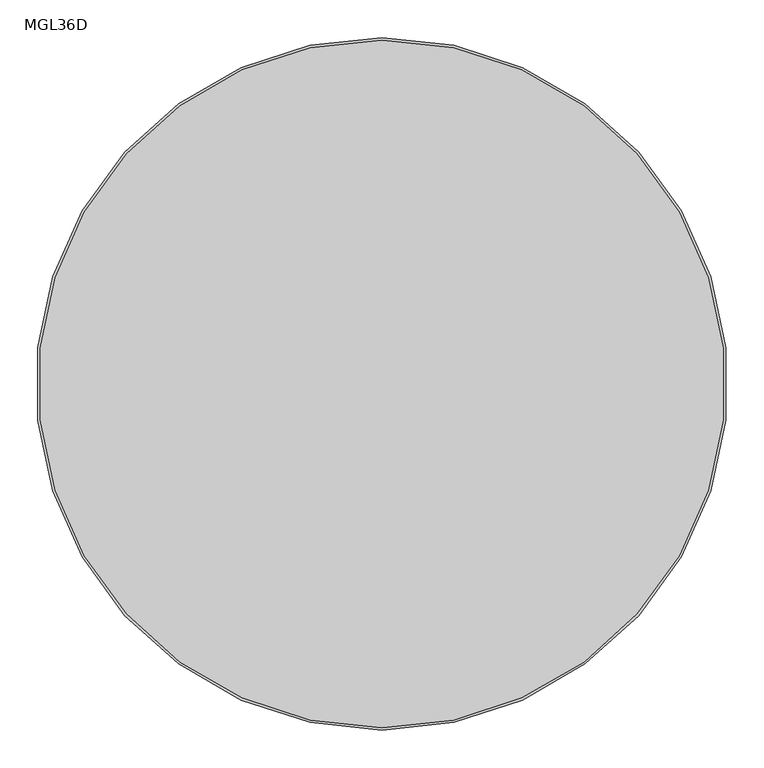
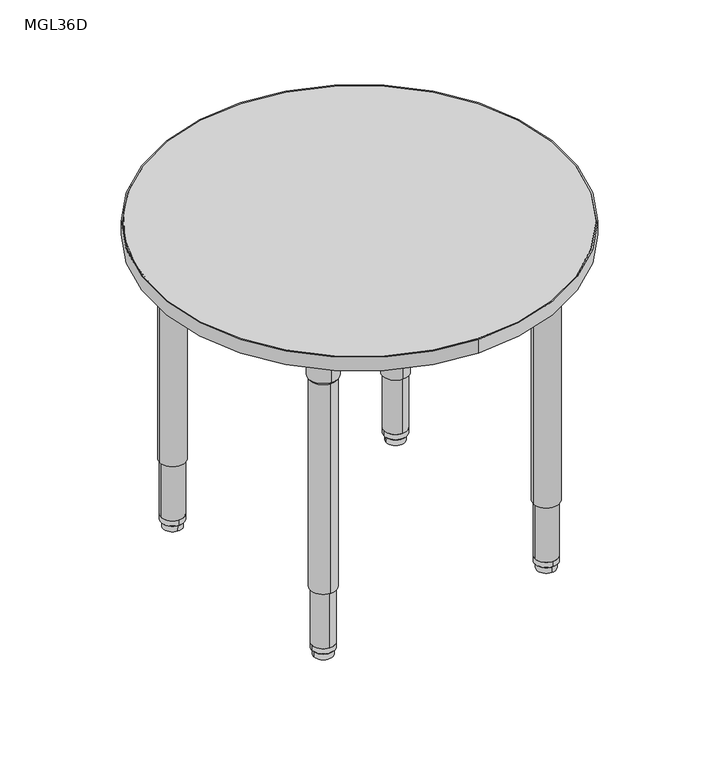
"""IFC4 building model written with IfcOpenShell, lengths in millimetres: furniture geometry, ERG-Mingle-Table-Round : MGL36D."""

import ifcopenshell
import ifcopenshell.guid

model = None  # the IFC model being written
_history = None  # IfcOwnerHistory: only IFC2X3 demands one
_inside = {}  # id of a spatial element -> (the spatial element, [elements in it])
_under = {}  # id of a project, library or spatial element -> (it, [spatial elements below it])
_declared = {}  # id of a project -> (the project, [libraries it declares])
_typed = {}  # id of a type object -> (the type object, [elements of that type])
_made_of = {}  # id of a material, layer set ... -> (it, [elements and type objects made of it])


def new_model(schema):
    """Start an empty IFC model of exactly this schema.

    Asked for "IFC4X3", IfcOpenShell would pick the latest addendum, in which some entities
    have other attributes; the version numbers below select the first issue.
    IFC2X3 requires an IfcOwnerHistory on every rooted entity: one is made here for all.
    """
    global model, _history
    if schema == "IFC4X3":
        model = ifcopenshell.file(schema_version=(4, 3, 0, 0))
    else:
        model = ifcopenshell.file(schema=schema)
    _inside.clear()
    _under.clear()
    _declared.clear()
    _typed.clear()
    _made_of.clear()
    _history = None
    if model.schema == "IFC2X3":
        org = make("IfcOrganization", Name="unknown")
        user = make(
            "IfcPersonAndOrganization",
            ThePerson=make("IfcPerson", FamilyName="unknown"),
            TheOrganization=org,
        )
        app = make(
            "IfcApplication",
            ApplicationDeveloper=org,
            Version="unknown",
            ApplicationFullName="unknown",
            ApplicationIdentifier="unknown",
        )
        _history = make(
            "IfcOwnerHistory",
            OwningUser=user,
            OwningApplication=app,
            ChangeAction="ADDED",
            CreationDate=0,
        )
    return model


def make(cls, **values):
    """One entity of the class cls with the attributes given. An attribute that is None is left unset."""
    return model.create_entity(
        cls, **{name: value for name, value in values.items() if value is not None}
    )


def rooted(cls, **values):
    """An entity with a GlobalId (a new one), such as an element, a storey or a relation."""
    return make(cls, GlobalId=ifcopenshell.guid.new(), OwnerHistory=_history, **values)


def si_unit(unit_type, name, prefix=None):
    """IfcSIUnit, for example si_unit("LENGTHUNIT", "METRE", prefix="MILLI")."""
    return make("IfcSIUnit", UnitType=unit_type, Prefix=prefix, Name=name)


def assignment(units):
    """IfcUnitAssignment: the units of a project."""
    return None if units is None else make("IfcUnitAssignment", Units=units)


def point(xyz):
    """IfcCartesianPoint."""
    return None if xyz is None else make("IfcCartesianPoint", Coordinates=xyz)


def direction(xyz):
    """IfcDirection."""
    return None if xyz is None else make("IfcDirection", DirectionRatios=xyz)


def frame(location, z_axis=None, x_axis=None):
    """IfcAxis2Placement3D, a coordinate frame: its origin and axes. An axis left out is left unset."""
    return make(
        "IfcAxis2Placement3D",
        Location=point(location),
        Axis=direction(z_axis),
        RefDirection=direction(x_axis),
    )


def frame_2d(location, x_axis=None):
    """IfcAxis2Placement2D, a coordinate frame in the plane: its origin and x axis."""
    return make(
        "IfcAxis2Placement2D", Location=point(location), RefDirection=direction(x_axis)
    )


def origin():
    """The frame at (0, 0, 0) with its axes left unset."""
    return frame((0.0, 0.0, 0.0))


def origin_2d():
    """The frame at (0, 0) in the plane with its x axis left unset."""
    return frame_2d((0.0, 0.0))


def place(relative_to, where):
    """IfcLocalPlacement: puts the frame where relative to a parent placement (None: the world)."""
    return make(
        "IfcLocalPlacement", PlacementRelTo=relative_to, RelativePlacement=where
    )


def context(
    kind, dimensions, precision=None, world=None, true_north=None, identifier=None
):
    """IfcGeometricRepresentationContext, for example the 3D "Model" context."""
    return make(
        "IfcGeometricRepresentationContext",
        ContextIdentifier=identifier,
        ContextType=kind,
        CoordinateSpaceDimension=dimensions,
        Precision=precision,
        WorldCoordinateSystem=world,
        TrueNorth=true_north,
    )


def project(units=None, contexts=None):
    """IfcProject with its units and contexts."""
    return rooted(
        "IfcProject",
        Name="project",
        RepresentationContexts=contexts,
        UnitsInContext=assignment(units),
    )


def spatial(cls, under=None, at=None, **own):
    """A site, building, storey or space (cls), placed at a placement, below another one or the project."""
    s = rooted(cls, ObjectPlacement=at, **own)
    if under is not None:
        _under.setdefault(under.id(), (under, []))[1].append(s)
    return s


def polyline(points):
    """IfcPolyline through the points."""
    return make("IfcPolyline", Points=[point(p) for p in points])


def circle_curve(where, radius):
    """IfcCircle in the frame where."""
    return make("IfcCircle", Position=where, Radius=radius)


def trimmed(basis, trim1, trim2, sense, master):
    """IfcTrimmedCurve: the piece of a basis curve between two trims."""
    return make(
        "IfcTrimmedCurve",
        BasisCurve=basis,
        Trim1=trim1,
        Trim2=trim2,
        SenseAgreement=sense,
        MasterRepresentation=master,
    )


def segment(curve, same_sense, transition):
    """IfcCompositeCurveSegment."""
    return make(
        "IfcCompositeCurveSegment",
        Transition=transition,
        SameSense=same_sense,
        ParentCurve=curve,
    )


def composite_curve(segments, self_intersect=None):
    """IfcCompositeCurve: segments joined end to end."""
    return make("IfcCompositeCurve", Segments=segments, SelfIntersect=self_intersect)


def outline(outer, holes=None, kind="AREA"):
    """IfcArbitraryClosedProfileDef: a profile drawn as a closed curve; with holes, ...WithVoids."""
    if holes is None:
        return make("IfcArbitraryClosedProfileDef", ProfileType=kind, OuterCurve=outer)
    return make(
        "IfcArbitraryProfileDefWithVoids",
        ProfileType=kind,
        OuterCurve=outer,
        InnerCurves=holes,
    )


def extrude(swept, where, along, depth):
    """IfcExtrudedAreaSolid: the profile swept, set in the frame where, extruded along a direction by depth."""
    return make(
        "IfcExtrudedAreaSolid",
        SweptArea=swept,
        Position=where,
        ExtrudedDirection=direction(along),
        Depth=depth,
    )


def shape(context_of_items, identifier, shape_type, items):
    """IfcShapeRepresentation: the items that make up one representation, for example the "Body"."""
    return make(
        "IfcShapeRepresentation",
        ContextOfItems=context_of_items,
        RepresentationIdentifier=identifier,
        RepresentationType=shape_type,
        Items=items,
    )


def source(mapping_origin, context_of_items, identifier, shape_type, items):
    """IfcRepresentationMap: a shape defined once, which mapped items show again and again."""
    return make(
        "IfcRepresentationMap",
        MappingOrigin=mapping_origin,
        MappedRepresentation=shape(context_of_items, identifier, shape_type, items),
    )


def transform(
    local_origin,
    x_axis=None,
    y_axis=None,
    z_axis=None,
    scale=None,
    scale2=None,
    scale3=None,
    uniform=True,
):
    """IfcCartesianTransformationOperator3D, or its non-uniform kind. x_axis, y_axis, z_axis: its Axis1, 2, 3."""
    if uniform:
        return make(
            "IfcCartesianTransformationOperator3D",
            Axis1=direction(x_axis),
            Axis2=direction(y_axis),
            LocalOrigin=point(local_origin),
            Scale=scale,
            Axis3=direction(z_axis),
        )
    return make(
        "IfcCartesianTransformationOperator3DnonUniform",
        Axis1=direction(x_axis),
        Axis2=direction(y_axis),
        LocalOrigin=point(local_origin),
        Scale=scale,
        Axis3=direction(z_axis),
        Scale2=scale2,
        Scale3=scale3,
    )


def mapped(mapping_source, mapping_target):
    """IfcMappedItem: shows the shape of a source again, moved by a transform."""
    return make(
        "IfcMappedItem", MappingSource=mapping_source, MappingTarget=mapping_target
    )


def made_of(thing, what):
    """Note that an element or type object is made of a material, layer set ...; save() writes the relation."""
    if what is not None:
        _made_of.setdefault(what.id(), (what, []))[1].append(thing)
    return thing


def element(
    cls,
    number,
    at=None,
    inside=None,
    cuts=None,
    type_object=None,
    material=None,
    context=None,
    identifier="Body",
    shape_type=None,
    held_by="IfcProductDefinitionShape",
    body=None,
    shapes=None,
    **own,
):
    """One element of the class cls, such as IfcWall. Its Tag is "e" and its number.

    at: its placement. inside: the storey or other place that contains it. cuts: it is an
    opening in that element (IfcRelVoidsElement). A single representation is given by context,
    identifier, shape_type and body (its items); several are given by shapes. held_by: the class
    of the entity that holds the representations. save() writes the other relations.
    """
    e = rooted(cls, Tag="e%d" % number, ObjectPlacement=at, **own)
    if body is not None:
        shapes = [shape(context, identifier, shape_type, body)]
    if shapes is not None:
        e.Representation = make(held_by, Representations=shapes)
    if inside is not None:
        _inside.setdefault(inside.id(), (inside, []))[1].append(e)
    if cuts is not None:
        rooted(
            "IfcRelVoidsElement", RelatingBuildingElement=cuts, RelatedOpeningElement=e
        )
    if type_object is not None:
        _typed.setdefault(type_object.id(), (type_object, []))[1].append(e)
    return made_of(e, material)


def aggregate(whole, parts):
    """IfcRelAggregates: a whole, such as a stair, and the parts it consists of."""
    return rooted("IfcRelAggregates", RelatingObject=whole, RelatedObjects=parts)


def save(model, path):
    """Write the relations noted so far, then the file.

    IfcRelAggregates (storeys below a building ...), IfcRelContainedInSpatialStructure (elements
    in a storey), IfcRelDefinesByType, IfcRelAssociatesMaterial and IfcRelDeclares: one each for
    every whole, place, type object, material and project.
    """
    for whole, parts in _under.values():
        aggregate(whole, parts)
    for where, things in _inside.values():
        rooted(
            "IfcRelContainedInSpatialStructure",
            RelatedElements=things,
            RelatingStructure=where,
        )
    for kind, things in _typed.values():
        rooted("IfcRelDefinesByType", RelatedObjects=things, RelatingType=kind)
    for what, things in _made_of.values():
        rooted("IfcRelAssociatesMaterial", RelatedObjects=things, RelatingMaterial=what)
    for by, libraries in _declared.values():
        rooted("IfcRelDeclares", RelatingContext=by, RelatedDefinitions=libraries)
    model.write(path)


def plane_surface(at):
    """IfcPlane: the flat surface through the origin of the frame at, square to its z axis."""
    return make("IfcPlane", Position=at)


def cylinder_surface(at, radius):
    """IfcCylindricalSurface: all points at the distance radius from the z axis of the frame at."""
    return make("IfcCylindricalSurface", Position=at, Radius=radius)


def revolved_surface(curve, axis_point, axis_direction):
    """IfcSurfaceOfRevolution: the curve turned about the line through axis_point along axis_direction."""
    return make(
        "IfcSurfaceOfRevolution",
        SweptCurve=make("IfcArbitraryOpenProfileDef", ProfileType="CURVE", Curve=curve),
        AxisPosition=make("IfcAxis1Placement", Location=point(axis_point), Axis=direction(axis_direction)),
    )


def advanced_brep(points, edges, surfaces, faces):
    """IfcAdvancedBrep: a solid bounded by faces that lie on surfaces and meet in shared edges.

    An edge is (start, end): straight between two places in points (the first is 0);
    or (start, end, curve); or (start, end, curve, False) where it runs against its curve.
    A face is (place in surfaces, loops), or (place, loops, False) where it looks against
    its surface's normal. A loop lists edges by number (the first is 1), with a minus sign
    where the edge is run from its end to its start. The first loop is the outer one.
    """
    corners = [point(p) for p in points]
    vertices = [make("IfcVertexPoint", VertexGeometry=c) for c in corners]
    made = []
    for start, end, *more in edges:
        made.append(
            make(
                "IfcEdgeCurve",
                EdgeStart=vertices[start],
                EdgeEnd=vertices[end],
                EdgeGeometry=more[0] if more else make("IfcPolyline", Points=[corners[start], corners[end]]),
                SameSense=more[1] if len(more) > 1 else True,
            )
        )
    hull = []
    for where, loops, *sense in faces:
        bounds = []
        for j, loop in enumerate(loops):
            ring = [make("IfcOrientedEdge", EdgeElement=made[abs(k) - 1], Orientation=k > 0) for k in loop]
            bounds.append(
                make(
                    "IfcFaceOuterBound" if j == 0 else "IfcFaceBound",
                    Bound=make("IfcEdgeLoop", EdgeList=ring),
                    Orientation=True,
                )
            )
        hull.append(make("IfcAdvancedFace", Bounds=bounds, FaceSurface=surfaces[where], SameSense=sense[0] if sense else True))
    return make("IfcAdvancedBrep", Outer=make("IfcClosedShell", CfsFaces=hull))


def mgl36d_3e933a5c(model_context):
    return source(origin(), model_context, "Body", "SolidModel", [
        advanced_brep(
        [(245.7067524, -239.2235787, 650.5933069), (305.777384, -239.2235787, 650.5933069), (275.7420682, -239.2235787, 650.5933069), (243.5981851, -239.2235787, 654.3580481), (307.8859512, -239.2235787, 654.3580481), (242.6627033, -239.2235787, 707.7631458), (308.8214331, -239.2235787, 707.7631458), (239.2131512, -239.2235787, 714.1198315), (312.2709852, -239.2235787, 714.1198315), (239.2131512, -239.2235787, 726.8198315), (312.2709852, -239.2235787, 726.8198315), (275.7420682, -239.2235787, 726.8198315)],
        [
            (0, 1, circle_curve(frame((275.7420682, -239.2235787, 650.5933069), z_axis=(0.0, 0.0, -1.0), x_axis=(1.0, 0.0, 0.0)), 30.0353158)),
            (1, 2),
            (2, 0),
            (1, 0, circle_curve(frame((275.7420682, -239.2235787, 650.5933069), z_axis=(0.0, 0.0, -1.0), x_axis=(1.0, 0.0, 0.0)), 30.0353158)),
            (3, 4, circle_curve(frame((275.7420682, -239.2235787, 654.3580481), z_axis=(0.0, 0.0, -1.0), x_axis=(1.0, 0.0, 0.0)), 32.143883)),
            (4, 1),
            (0, 3),
            (4, 3, circle_curve(frame((275.7420682, -239.2235787, 654.3580481), z_axis=(0.0, 0.0, -1.0), x_axis=(1.0, 0.0, 0.0)), 32.143883)),
            (5, 6, circle_curve(frame((275.7420682, -239.2235787, 707.7631458), z_axis=(0.0, 0.0, -1.0), x_axis=(1.0, 0.0, 0.0)), 33.0793649)),
            (6, 4),
            (3, 5),
            (6, 5, circle_curve(frame((275.7420682, -239.2235787, 707.7631458), z_axis=(0.0, 0.0, -1.0), x_axis=(1.0, 0.0, 0.0)), 33.0793649)),
            (7, 8, circle_curve(frame((275.7420682, -239.2235787, 714.1198315), z_axis=(0.0, 0.0, -1.0), x_axis=(1.0, 0.0, 0.0)), 36.528917)),
            (8, 6),
            (5, 7),
            (8, 7, circle_curve(frame((275.7420682, -239.2235787, 714.1198315), z_axis=(0.0, 0.0, -1.0), x_axis=(1.0, 0.0, 0.0)), 36.528917)),
            (9, 10, circle_curve(frame((275.7420682, -239.2235787, 726.8198315), z_axis=(0.0, 0.0, -1.0), x_axis=(1.0, 0.0, 0.0)), 36.528917)),
            (10, 8),
            (7, 9),
            (10, 9, circle_curve(frame((275.7420682, -239.2235787, 726.8198315), z_axis=(0.0, 0.0, -1.0), x_axis=(1.0, 0.0, 0.0)), 36.528917)),
            (11, 10),
            (9, 11),
        ],
        [
            plane_surface(frame((275.7420682, -239.2235787, 650.5933069), z_axis=(0.0, 0.0, -1.0), x_axis=(1.0, 0.0, 0.0))),
            revolved_surface(polyline([(305.777384, -239.2235787, 650.5933069), (307.8859512, -239.2235787, 654.3580481)]), (275.7420682, -239.2235787, 726.8198315), (0.0, 0.0, 1.0)),
            revolved_surface(polyline([(307.8859512, -239.2235787, 654.3580481), (308.8214331, -239.2235787, 707.7631458)]), (275.7420682, -239.2235787, 726.8198315), (0.0, 0.0, 1.0)),
            revolved_surface(polyline([(308.8214331, -239.2235787, 707.7631458), (312.2709852, -239.2235787, 714.1198315)]), (275.7420682, -239.2235787, 726.8198315), (0.0, 0.0, 1.0)),
            cylinder_surface(frame((275.7420682, -239.2235787, 726.8198315), z_axis=(0.0, 0.0, 1.0), x_axis=(1.0, 0.0, 0.0)), 36.528917),
            plane_surface(frame((275.7420682, -239.2235787, 726.8198315), z_axis=(0.0, 0.0, 1.0), x_axis=(1.0, 0.0, 0.0))),
        ],
        [
            (0, [[1, 2, 3]]),
            (0, [[4, -3, -2]]),
            (1, [[5, 6, -1, 7]]),
            (1, [[8, -7, -4, -6]]),
            (2, [[9, 10, -5, 11]]),
            (2, [[12, -11, -8, -10]]),
            (3, [[13, 14, -9, 15]]),
            (3, [[16, -15, -12, -14]]),
            (4, [[17, 18, -13, 19]]),
            (4, [[20, -19, -16, -18]]),
            (5, [[21, -17, 22]]),
            (5, [[-22, -20, -21]]),
        ],
    ),
        extrude(outline(composite_curve([segment(polyline([(321.6158362, -156.6459213), (321.6158362, -270.3719541)]), True, "CONTINUOUS"), segment(trimmed(circle_curve(frame_2d((305.7408362, -270.3719541)), 15.875), [point((321.6158362, -270.3719541))], [point((305.7408362, -286.2469541))], False, "CARTESIAN"), True, "CONTINUOUS"), segment(polyline([(305.7408362, -286.2469541), (192.0284887, -286.2469541)]), True, "CONTINUOUS"), segment(trimmed(circle_curve(frame_2d((192.0284887, -273.5469541)), 12.7), [point((192.0284887, -286.2469541))], [point((179.3912605, -272.2858181))], False, "CARTESIAN"), True, "CONTINUOUS"), segment(trimmed(circle_curve(frame_2d((321.8906759, -286.5065903)), 143.2072406), [point((179.3912605, -272.2858181))], [point((307.6532207, -144.0088408))], False, "CARTESIAN"), True, "CONTINUOUS"), segment(trimmed(circle_curve(frame_2d((308.9158362, -156.6459213)), 12.7), [point((307.6532207, -144.0088408))], [point((321.6158362, -156.6459213))], False, "CARTESIAN"), True, "CONTINUOUS")], self_intersect=False)), frame((0.0, 0.0, 726.8198315), z_axis=(0.0, 0.0, 1.0), x_axis=(1.0, 0.0, 0.0)), (0.0, 0.0, 1.0), 3.4301685),
        extrude(outline(composite_curve([segment(trimmed(circle_curve(frame_2d((275.7420682, -239.2235787)), 28.575), [point((304.3170682, -239.2235787))], [point((247.1670682, -239.2235787))], False, "CARTESIAN"), True, "CONTINUOUS"), segment(trimmed(circle_curve(frame_2d((275.7420682, -239.2235787)), 28.575), [point((247.1670682, -239.2235787))], [point((304.3170682, -239.2235787))], False, "CARTESIAN"), True, "CONTINUOUS")], self_intersect=False)), frame((0.0, 0.0, 158.3876979), z_axis=(0.0, 0.0, 1.0), x_axis=(1.0, 0.0, 0.0)), (0.0, 0.0, 1.0), 495.4089866),
        extrude(outline(composite_curve([segment(trimmed(circle_curve(frame_2d((275.7420682, -239.2235787)), 25.4), [point((301.1420682, -239.2235787))], [point((250.3420682, -239.2235787))], False, "CARTESIAN"), True, "CONTINUOUS"), segment(trimmed(circle_curve(frame_2d((275.7420682, -239.2235787)), 25.4), [point((250.3420682, -239.2235787))], [point((301.1420682, -239.2235787))], False, "CARTESIAN"), True, "CONTINUOUS")], self_intersect=False)), frame((0.0, 0.0, 28.9580435), z_axis=(0.0, 0.0, 1.0), x_axis=(1.0, 0.0, 0.0)), (0.0, 0.0, 1.0), 176.7049119),
        advanced_brep(
        [(275.7420682, -213.9885683, 28.9580185), (275.7420682, -264.458589, 28.9580185), (275.7420682, -239.2235787, 28.9580185), (275.7420682, -214.1243397, 16.3032949), (275.7420682, -264.3228177, 16.3032949), (275.7420682, -215.6396405, 14.7291007), (275.7420682, -262.8075168, 14.7291007), (275.7420682, -218.0827209, 14.7291007), (275.7420682, -260.3644364, 14.7291007), (275.7420682, -218.2757123, 0.0), (275.7420682, -260.171445, 0.0), (275.7420682, -239.2235787, 0.0)],
        [
            (0, 1, circle_curve(frame((275.7420682, -239.2235787, 28.9580185), z_axis=(0.0, 0.0, 1.0), x_axis=(0.0, -1.0, 0.0)), 25.2350104)),
            (1, 2),
            (2, 0),
            (1, 0, circle_curve(frame((275.7420682, -239.2235787, 28.9580185), z_axis=(0.0, 0.0, 1.0), x_axis=(0.0, -1.0, 0.0)), 25.2350104)),
            (3, 4, circle_curve(frame((275.7420682, -239.2235787, 16.3032949), z_axis=(0.0, 0.0, 1.0), x_axis=(0.0, -1.0, 0.0)), 25.099239)),
            (4, 1),
            (0, 3),
            (4, 3, circle_curve(frame((275.7420682, -239.2235787, 16.3032949), z_axis=(0.0, 0.0, 1.0), x_axis=(0.0, -1.0, 0.0)), 25.099239)),
            (5, 6, circle_curve(frame((275.7420682, -239.2235787, 14.7291007), z_axis=(0.0, 0.0, 1.0), x_axis=(0.0, -1.0, 0.0)), 23.5839381)),
            (6, 4),
            (3, 5),
            (6, 5, circle_curve(frame((275.7420682, -239.2235787, 14.7291007), z_axis=(0.0, 0.0, 1.0), x_axis=(0.0, -1.0, 0.0)), 23.5839381)),
            (7, 8, circle_curve(frame((275.7420682, -239.2235787, 14.7291007), z_axis=(0.0, 0.0, 1.0), x_axis=(0.0, -1.0, 0.0)), 21.1408578)),
            (8, 6),
            (5, 7),
            (8, 7, circle_curve(frame((275.7420682, -239.2235787, 14.7291007), z_axis=(0.0, 0.0, 1.0), x_axis=(0.0, -1.0, 0.0)), 21.1408578)),
            (9, 10, circle_curve(frame((275.7420682, -239.2235787, 0.0), z_axis=(0.0, 0.0, 1.0), x_axis=(0.0, -1.0, 0.0)), 20.9478664)),
            (10, 8),
            (7, 9),
            (10, 9, circle_curve(frame((275.7420682, -239.2235787, 0.0), z_axis=(0.0, 0.0, 1.0), x_axis=(0.0, -1.0, 0.0)), 20.9478664)),
            (11, 10),
            (9, 11),
        ],
        [
            plane_surface(frame((275.7420682, -239.2235787, 28.9580185), z_axis=(0.0, 0.0, 1.0), x_axis=(0.0, -1.0, 0.0))),
            revolved_surface(polyline([(275.7420682, -264.458589, 28.9580185), (275.7420682, -264.3228177, 16.3032949)]), (275.7420682, -239.2235787, 0.0), (0.0, 0.0, -1.0)),
            revolved_surface(polyline([(275.7420682, -264.3228177, 16.3032949), (275.7420682, -262.8075168, 14.7291007)]), (275.7420682, -239.2235787, 0.0), (0.0, 0.0, -1.0)),
            plane_surface(frame((275.7420682, -239.2235787, 14.7291007), z_axis=(0.0, 0.0, -1.0), x_axis=(0.0, -1.0, 0.0))),
            revolved_surface(polyline([(275.7420682, -260.3644364, 14.7291007), (275.7420682, -260.171445, 0.0)]), (275.7420682, -239.2235787, 0.0), (0.0, 0.0, -1.0)),
            plane_surface(frame((275.7420682, -239.2235787, 0.0), z_axis=(0.0, 0.0, -1.0), x_axis=(0.0, -1.0, 0.0))),
        ],
        [
            (0, [[1, 2, 3]]),
            (0, [[4, -3, -2]]),
            (1, [[5, 6, -1, 7]]),
            (1, [[8, -7, -4, -6]]),
            (2, [[9, 10, -5, 11]]),
            (2, [[12, -11, -8, -10]]),
            (3, [[13, 14, -9, 15]]),
            (3, [[16, -15, -12, -14]]),
            (4, [[17, 18, -13, 19]]),
            (4, [[20, -19, -16, -18]]),
            (5, [[21, -17, 22]]),
            (5, [[-22, -20, -21]]),
        ],
    ),
        advanced_brep(
        [(-239.2235787, -245.7067524, 650.5933069), (-239.2235787, -305.777384, 650.5933069), (-239.2235787, -275.7420682, 650.5933069), (-239.2235787, -243.5981851, 654.3580481), (-239.2235787, -307.8859512, 654.3580481), (-239.2235787, -242.6627033, 707.7631458), (-239.2235787, -308.8214331, 707.7631458), (-239.2235787, -239.2131512, 714.1198315), (-239.2235787, -312.2709852, 714.1198315), (-239.2235787, -239.2131512, 726.8198315), (-239.2235787, -312.2709852, 726.8198315), (-239.2235787, -275.7420682, 726.8198315)],
        [
            (0, 1, circle_curve(frame((-239.2235787, -275.7420682, 650.5933069), z_axis=(0.0, 0.0, -1.0), x_axis=(0.0, -1.0, 0.0)), 30.0353158)),
            (1, 2),
            (2, 0),
            (1, 0, circle_curve(frame((-239.2235787, -275.7420682, 650.5933069), z_axis=(0.0, 0.0, -1.0), x_axis=(0.0, -1.0, 0.0)), 30.0353158)),
            (3, 4, circle_curve(frame((-239.2235787, -275.7420682, 654.3580481), z_axis=(0.0, 0.0, -1.0), x_axis=(0.0, -1.0, 0.0)), 32.143883)),
            (4, 1),
            (0, 3),
            (4, 3, circle_curve(frame((-239.2235787, -275.7420682, 654.3580481), z_axis=(0.0, 0.0, -1.0), x_axis=(0.0, -1.0, 0.0)), 32.143883)),
            (5, 6, circle_curve(frame((-239.2235787, -275.7420682, 707.7631458), z_axis=(0.0, 0.0, -1.0), x_axis=(0.0, -1.0, 0.0)), 33.0793649)),
            (6, 4),
            (3, 5),
            (6, 5, circle_curve(frame((-239.2235787, -275.7420682, 707.7631458), z_axis=(0.0, 0.0, -1.0), x_axis=(0.0, -1.0, 0.0)), 33.0793649)),
            (7, 8, circle_curve(frame((-239.2235787, -275.7420682, 714.1198315), z_axis=(0.0, 0.0, -1.0), x_axis=(0.0, -1.0, 0.0)), 36.528917)),
            (8, 6),
            (5, 7),
            (8, 7, circle_curve(frame((-239.2235787, -275.7420682, 714.1198315), z_axis=(0.0, 0.0, -1.0), x_axis=(0.0, -1.0, 0.0)), 36.528917)),
            (9, 10, circle_curve(frame((-239.2235787, -275.7420682, 726.8198315), z_axis=(0.0, 0.0, -1.0), x_axis=(0.0, -1.0, 0.0)), 36.528917)),
            (10, 8),
            (7, 9),
            (10, 9, circle_curve(frame((-239.2235787, -275.7420682, 726.8198315), z_axis=(0.0, 0.0, -1.0), x_axis=(0.0, -1.0, 0.0)), 36.528917)),
            (11, 10),
            (9, 11),
        ],
        [
            plane_surface(frame((-239.2235787, -275.7420682, 650.5933069), z_axis=(0.0, 0.0, -1.0), x_axis=(0.0, -1.0, 0.0))),
            revolved_surface(polyline([(-239.2235787, -305.777384, 650.5933069), (-239.2235787, -307.8859512, 654.3580481)]), (-239.2235787, -275.7420682, 726.8198315), (0.0, 0.0, 1.0)),
            revolved_surface(polyline([(-239.2235787, -307.8859512, 654.3580481), (-239.2235787, -308.8214331, 707.7631458)]), (-239.2235787, -275.7420682, 726.8198315), (0.0, 0.0, 1.0)),
            revolved_surface(polyline([(-239.2235787, -308.8214331, 707.7631458), (-239.2235787, -312.2709852, 714.1198315)]), (-239.2235787, -275.7420682, 726.8198315), (0.0, 0.0, 1.0)),
            cylinder_surface(frame((-239.2235787, -275.7420682, 726.8198315), z_axis=(0.0, 0.0, 1.0), x_axis=(0.0, -1.0, 0.0)), 36.528917),
            plane_surface(frame((-239.2235787, -275.7420682, 726.8198315), z_axis=(0.0, 0.0, 1.0), x_axis=(0.0, -1.0, 0.0))),
        ],
        [
            (0, [[1, 2, 3]]),
            (0, [[4, -3, -2]]),
            (1, [[5, 6, -1, 7]]),
            (1, [[8, -7, -4, -6]]),
            (2, [[9, 10, -5, 11]]),
            (2, [[12, -11, -8, -10]]),
            (3, [[13, 14, -9, 15]]),
            (3, [[16, -15, -12, -14]]),
            (4, [[17, 18, -13, 19]]),
            (4, [[20, -19, -16, -18]]),
            (5, [[21, -17, 22]]),
            (5, [[-22, -20, -21]]),
        ],
    ),
        extrude(outline(composite_curve([segment(polyline([(-156.6459213, -321.6158362), (-270.3719541, -321.6158362)]), True, "CONTINUOUS"), segment(trimmed(circle_curve(frame_2d((-270.3719541, -305.7408362)), 15.875), [point((-270.3719541, -321.6158362))], [point((-286.2469541, -305.7408362))], False, "CARTESIAN"), True, "CONTINUOUS"), segment(polyline([(-286.2469541, -305.7408362), (-286.2469541, -192.0284887)]), True, "CONTINUOUS"), segment(trimmed(circle_curve(frame_2d((-273.5469541, -192.0284887)), 12.7), [point((-286.2469541, -192.0284887))], [point((-272.2858181, -179.3912605))], False, "CARTESIAN"), True, "CONTINUOUS"), segment(trimmed(circle_curve(frame_2d((-286.5065903, -321.8906759)), 143.2072406), [point((-272.2858181, -179.3912605))], [point((-144.0088408, -307.6532207))], False, "CARTESIAN"), True, "CONTINUOUS"), segment(trimmed(circle_curve(frame_2d((-156.6459213, -308.9158362)), 12.7), [point((-144.0088408, -307.6532207))], [point((-156.6459213, -321.6158362))], False, "CARTESIAN"), True, "CONTINUOUS")], self_intersect=False)), frame((0.0, 0.0, 726.8198315), z_axis=(0.0, 0.0, 1.0), x_axis=(1.0, 0.0, 0.0)), (0.0, 0.0, 1.0), 3.4301685),
        extrude(outline(composite_curve([segment(trimmed(circle_curve(frame_2d((-239.2235787, -275.7420682)), 28.575), [point((-239.2235787, -304.3170682))], [point((-239.2235787, -247.1670682))], False, "CARTESIAN"), True, "CONTINUOUS"), segment(trimmed(circle_curve(frame_2d((-239.2235787, -275.7420682)), 28.575), [point((-239.2235787, -247.1670682))], [point((-239.2235787, -304.3170682))], False, "CARTESIAN"), True, "CONTINUOUS")], self_intersect=False)), frame((0.0, 0.0, 158.3876979), z_axis=(0.0, 0.0, 1.0), x_axis=(1.0, 0.0, 0.0)), (0.0, 0.0, 1.0), 495.4089866),
        extrude(outline(composite_curve([segment(trimmed(circle_curve(frame_2d((-239.2235787, -275.7420682)), 25.4), [point((-239.2235787, -301.1420682))], [point((-239.2235787, -250.3420682))], False, "CARTESIAN"), True, "CONTINUOUS"), segment(trimmed(circle_curve(frame_2d((-239.2235787, -275.7420682)), 25.4), [point((-239.2235787, -250.3420682))], [point((-239.2235787, -301.1420682))], False, "CARTESIAN"), True, "CONTINUOUS")], self_intersect=False)), frame((0.0, 0.0, 28.9580435), z_axis=(0.0, 0.0, 1.0), x_axis=(1.0, 0.0, 0.0)), (0.0, 0.0, 1.0), 176.7049119),
        advanced_brep(
        [(-213.9885683, -275.7420682, 28.9580185), (-264.458589, -275.7420682, 28.9580185), (-239.2235787, -275.7420682, 28.9580185), (-214.1243397, -275.7420682, 16.3032949), (-264.3228177, -275.7420682, 16.3032949), (-215.6396405, -275.7420682, 14.7291007), (-262.8075168, -275.7420682, 14.7291007), (-218.0827209, -275.7420682, 14.7291007), (-260.3644364, -275.7420682, 14.7291007), (-218.2757123, -275.7420682, 0.0), (-260.171445, -275.7420682, 0.0), (-239.2235787, -275.7420682, 0.0)],
        [
            (0, 1, circle_curve(frame((-239.2235787, -275.7420682, 28.9580185), z_axis=(0.0, 0.0, 1.0), x_axis=(-1.0, 0.0, 0.0)), 25.2350104)),
            (1, 2),
            (2, 0),
            (1, 0, circle_curve(frame((-239.2235787, -275.7420682, 28.9580185), z_axis=(0.0, 0.0, 1.0), x_axis=(-1.0, 0.0, 0.0)), 25.2350104)),
            (3, 4, circle_curve(frame((-239.2235787, -275.7420682, 16.3032949), z_axis=(0.0, 0.0, 1.0), x_axis=(-1.0, 0.0, 0.0)), 25.099239)),
            (4, 1),
            (0, 3),
            (4, 3, circle_curve(frame((-239.2235787, -275.7420682, 16.3032949), z_axis=(0.0, 0.0, 1.0), x_axis=(-1.0, 0.0, 0.0)), 25.099239)),
            (5, 6, circle_curve(frame((-239.2235787, -275.7420682, 14.7291007), z_axis=(0.0, 0.0, 1.0), x_axis=(-1.0, 0.0, 0.0)), 23.5839381)),
            (6, 4),
            (3, 5),
            (6, 5, circle_curve(frame((-239.2235787, -275.7420682, 14.7291007), z_axis=(0.0, 0.0, 1.0), x_axis=(-1.0, 0.0, 0.0)), 23.5839381)),
            (7, 8, circle_curve(frame((-239.2235787, -275.7420682, 14.7291007), z_axis=(0.0, 0.0, 1.0), x_axis=(-1.0, 0.0, 0.0)), 21.1408578)),
            (8, 6),
            (5, 7),
            (8, 7, circle_curve(frame((-239.2235787, -275.7420682, 14.7291007), z_axis=(0.0, 0.0, 1.0), x_axis=(-1.0, 0.0, 0.0)), 21.1408578)),
            (9, 10, circle_curve(frame((-239.2235787, -275.7420682, 0.0), z_axis=(0.0, 0.0, 1.0), x_axis=(-1.0, 0.0, 0.0)), 20.9478664)),
            (10, 8),
            (7, 9),
            (10, 9, circle_curve(frame((-239.2235787, -275.7420682, 0.0), z_axis=(0.0, 0.0, 1.0), x_axis=(-1.0, 0.0, 0.0)), 20.9478664)),
            (11, 10),
            (9, 11),
        ],
        [
            plane_surface(frame((-239.2235787, -275.7420682, 28.9580185), z_axis=(0.0, 0.0, 1.0), x_axis=(-1.0, 0.0, 0.0))),
            revolved_surface(polyline([(-264.458589, -275.7420682, 28.9580185), (-264.3228177, -275.7420682, 16.3032949)]), (-239.2235787, -275.7420682, 0.0), (0.0, 0.0, -1.0)),
            revolved_surface(polyline([(-264.3228177, -275.7420682, 16.3032949), (-262.8075168, -275.7420682, 14.7291007)]), (-239.2235787, -275.7420682, 0.0), (0.0, 0.0, -1.0)),
            plane_surface(frame((-239.2235787, -275.7420682, 14.7291007), z_axis=(0.0, 0.0, -1.0), x_axis=(-1.0, 0.0, 0.0))),
            revolved_surface(polyline([(-260.3644364, -275.7420682, 14.7291007), (-260.171445, -275.7420682, 0.0)]), (-239.2235787, -275.7420682, 0.0), (0.0, 0.0, -1.0)),
            plane_surface(frame((-239.2235787, -275.7420682, 0.0), z_axis=(0.0, 0.0, -1.0), x_axis=(-1.0, 0.0, 0.0))),
        ],
        [
            (0, [[1, 2, 3]]),
            (0, [[4, -3, -2]]),
            (1, [[5, 6, -1, 7]]),
            (1, [[8, -7, -4, -6]]),
            (2, [[9, 10, -5, 11]]),
            (2, [[12, -11, -8, -10]]),
            (3, [[13, 14, -9, 15]]),
            (3, [[16, -15, -12, -14]]),
            (4, [[17, 18, -13, 19]]),
            (4, [[20, -19, -16, -18]]),
            (5, [[21, -17, 22]]),
            (5, [[-22, -20, -21]]),
        ],
    ),
        advanced_brep(
        [(239.2235787, 245.7067524, 650.5933069), (239.2235787, 305.777384, 650.5933069), (239.2235787, 275.7420682, 650.5933069), (239.2235787, 243.5981851, 654.3580481), (239.2235787, 307.8859512, 654.3580481), (239.2235787, 242.6627033, 707.7631458), (239.2235787, 308.8214331, 707.7631458), (239.2235787, 239.2131512, 714.1198315), (239.2235787, 312.2709852, 714.1198315), (239.2235787, 239.2131512, 726.8198315), (239.2235787, 312.2709852, 726.8198315), (239.2235787, 275.7420682, 726.8198315)],
        [
            (0, 1, circle_curve(frame((239.2235787, 275.7420682, 650.5933069), z_axis=(0.0, 0.0, -1.0), x_axis=(0.0, 1.0, 0.0)), 30.0353158)),
            (1, 2),
            (2, 0),
            (1, 0, circle_curve(frame((239.2235787, 275.7420682, 650.5933069), z_axis=(0.0, 0.0, -1.0), x_axis=(0.0, 1.0, 0.0)), 30.0353158)),
            (3, 4, circle_curve(frame((239.2235787, 275.7420682, 654.3580481), z_axis=(0.0, 0.0, -1.0), x_axis=(0.0, 1.0, 0.0)), 32.143883)),
            (4, 1),
            (0, 3),
            (4, 3, circle_curve(frame((239.2235787, 275.7420682, 654.3580481), z_axis=(0.0, 0.0, -1.0), x_axis=(0.0, 1.0, 0.0)), 32.143883)),
            (5, 6, circle_curve(frame((239.2235787, 275.7420682, 707.7631458), z_axis=(0.0, 0.0, -1.0), x_axis=(0.0, 1.0, 0.0)), 33.0793649)),
            (6, 4),
            (3, 5),
            (6, 5, circle_curve(frame((239.2235787, 275.7420682, 707.7631458), z_axis=(0.0, 0.0, -1.0), x_axis=(0.0, 1.0, 0.0)), 33.0793649)),
            (7, 8, circle_curve(frame((239.2235787, 275.7420682, 714.1198315), z_axis=(0.0, 0.0, -1.0), x_axis=(0.0, 1.0, 0.0)), 36.528917)),
            (8, 6),
            (5, 7),
            (8, 7, circle_curve(frame((239.2235787, 275.7420682, 714.1198315), z_axis=(0.0, 0.0, -1.0), x_axis=(0.0, 1.0, 0.0)), 36.528917)),
            (9, 10, circle_curve(frame((239.2235787, 275.7420682, 726.8198315), z_axis=(0.0, 0.0, -1.0), x_axis=(0.0, 1.0, 0.0)), 36.528917)),
            (10, 8),
            (7, 9),
            (10, 9, circle_curve(frame((239.2235787, 275.7420682, 726.8198315), z_axis=(0.0, 0.0, -1.0), x_axis=(0.0, 1.0, 0.0)), 36.528917)),
            (11, 10),
            (9, 11),
        ],
        [
            plane_surface(frame((239.2235787, 275.7420682, 650.5933069), z_axis=(0.0, 0.0, -1.0), x_axis=(0.0, 1.0, 0.0))),
            revolved_surface(polyline([(239.2235787, 305.777384, 650.5933069), (239.2235787, 307.8859512, 654.3580481)]), (239.2235787, 275.7420682, 726.8198315), (0.0, 0.0, 1.0)),
            revolved_surface(polyline([(239.2235787, 307.8859512, 654.3580481), (239.2235787, 308.8214331, 707.7631458)]), (239.2235787, 275.7420682, 726.8198315), (0.0, 0.0, 1.0)),
            revolved_surface(polyline([(239.2235787, 308.8214331, 707.7631458), (239.2235787, 312.2709852, 714.1198315)]), (239.2235787, 275.7420682, 726.8198315), (0.0, 0.0, 1.0)),
            cylinder_surface(frame((239.2235787, 275.7420682, 726.8198315), z_axis=(0.0, 0.0, 1.0), x_axis=(0.0, 1.0, 0.0)), 36.528917),
            plane_surface(frame((239.2235787, 275.7420682, 726.8198315), z_axis=(0.0, 0.0, 1.0), x_axis=(0.0, 1.0, 0.0))),
        ],
        [
            (0, [[1, 2, 3]]),
            (0, [[4, -3, -2]]),
            (1, [[5, 6, -1, 7]]),
            (1, [[8, -7, -4, -6]]),
            (2, [[9, 10, -5, 11]]),
            (2, [[12, -11, -8, -10]]),
            (3, [[13, 14, -9, 15]]),
            (3, [[16, -15, -12, -14]]),
            (4, [[17, 18, -13, 19]]),
            (4, [[20, -19, -16, -18]]),
            (5, [[21, -17, 22]]),
            (5, [[-22, -20, -21]]),
        ],
    ),
        extrude(outline(composite_curve([segment(polyline([(156.6459213, 321.6158362), (270.3719541, 321.6158362)]), True, "CONTINUOUS"), segment(trimmed(circle_curve(frame_2d((270.3719541, 305.7408362)), 15.875), [point((270.3719541, 321.6158362))], [point((286.2469541, 305.7408362))], False, "CARTESIAN"), True, "CONTINUOUS"), segment(polyline([(286.2469541, 305.7408362), (286.2469541, 192.0284887)]), True, "CONTINUOUS"), segment(trimmed(circle_curve(frame_2d((273.5469541, 192.0284887)), 12.7), [point((286.2469541, 192.0284887))], [point((272.2858181, 179.3912605))], False, "CARTESIAN"), True, "CONTINUOUS"), segment(trimmed(circle_curve(frame_2d((286.5065903, 321.8906759)), 143.2072406), [point((272.2858181, 179.3912605))], [point((144.0088408, 307.6532207))], False, "CARTESIAN"), True, "CONTINUOUS"), segment(trimmed(circle_curve(frame_2d((156.6459213, 308.9158362)), 12.7), [point((144.0088408, 307.6532207))], [point((156.6459213, 321.6158362))], False, "CARTESIAN"), True, "CONTINUOUS")], self_intersect=False)), frame((0.0, 0.0, 726.8198315), z_axis=(0.0, 0.0, 1.0), x_axis=(1.0, 0.0, 0.0)), (0.0, 0.0, 1.0), 3.4301685),
        extrude(outline(composite_curve([segment(trimmed(circle_curve(frame_2d((239.2235787, 275.7420682)), 28.575), [point((239.2235787, 304.3170682))], [point((239.2235787, 247.1670682))], False, "CARTESIAN"), True, "CONTINUOUS"), segment(trimmed(circle_curve(frame_2d((239.2235787, 275.7420682)), 28.575), [point((239.2235787, 247.1670682))], [point((239.2235787, 304.3170682))], False, "CARTESIAN"), True, "CONTINUOUS")], self_intersect=False)), frame((0.0, 0.0, 158.3876979), z_axis=(0.0, 0.0, 1.0), x_axis=(1.0, 0.0, 0.0)), (0.0, 0.0, 1.0), 495.4089866),
        extrude(outline(composite_curve([segment(trimmed(circle_curve(frame_2d((239.2235787, 275.7420682)), 25.4), [point((239.2235787, 301.1420682))], [point((239.2235787, 250.3420682))], False, "CARTESIAN"), True, "CONTINUOUS"), segment(trimmed(circle_curve(frame_2d((239.2235787, 275.7420682)), 25.4), [point((239.2235787, 250.3420682))], [point((239.2235787, 301.1420682))], False, "CARTESIAN"), True, "CONTINUOUS")], self_intersect=False)), frame((0.0, 0.0, 28.9580435), z_axis=(0.0, 0.0, 1.0), x_axis=(1.0, 0.0, 0.0)), (0.0, 0.0, 1.0), 176.7049119),
        advanced_brep(
        [(213.9885683, 275.7420682, 28.9580185), (264.458589, 275.7420682, 28.9580185), (239.2235787, 275.7420682, 28.9580185), (214.1243397, 275.7420682, 16.3032949), (264.3228177, 275.7420682, 16.3032949), (215.6396405, 275.7420682, 14.7291007), (262.8075168, 275.7420682, 14.7291007), (218.0827209, 275.7420682, 14.7291007), (260.3644364, 275.7420682, 14.7291007), (218.2757123, 275.7420682, 0.0), (260.171445, 275.7420682, 0.0), (239.2235787, 275.7420682, 0.0)],
        [
            (0, 1, circle_curve(frame((239.2235787, 275.7420682, 28.9580185), z_axis=(0.0, 0.0, 1.0), x_axis=(1.0, 0.0, 0.0)), 25.2350104)),
            (1, 2),
            (2, 0),
            (1, 0, circle_curve(frame((239.2235787, 275.7420682, 28.9580185), z_axis=(0.0, 0.0, 1.0), x_axis=(1.0, 0.0, 0.0)), 25.2350104)),
            (3, 4, circle_curve(frame((239.2235787, 275.7420682, 16.3032949), z_axis=(0.0, 0.0, 1.0), x_axis=(1.0, 0.0, 0.0)), 25.099239)),
            (4, 1),
            (0, 3),
            (4, 3, circle_curve(frame((239.2235787, 275.7420682, 16.3032949), z_axis=(0.0, 0.0, 1.0), x_axis=(1.0, 0.0, 0.0)), 25.099239)),
            (5, 6, circle_curve(frame((239.2235787, 275.7420682, 14.7291007), z_axis=(0.0, 0.0, 1.0), x_axis=(1.0, 0.0, 0.0)), 23.5839381)),
            (6, 4),
            (3, 5),
            (6, 5, circle_curve(frame((239.2235787, 275.7420682, 14.7291007), z_axis=(0.0, 0.0, 1.0), x_axis=(1.0, 0.0, 0.0)), 23.5839381)),
            (7, 8, circle_curve(frame((239.2235787, 275.7420682, 14.7291007), z_axis=(0.0, 0.0, 1.0), x_axis=(1.0, 0.0, 0.0)), 21.1408578)),
            (8, 6),
            (5, 7),
            (8, 7, circle_curve(frame((239.2235787, 275.7420682, 14.7291007), z_axis=(0.0, 0.0, 1.0), x_axis=(1.0, 0.0, 0.0)), 21.1408578)),
            (9, 10, circle_curve(frame((239.2235787, 275.7420682, 0.0), z_axis=(0.0, 0.0, 1.0), x_axis=(1.0, 0.0, 0.0)), 20.9478664)),
            (10, 8),
            (7, 9),
            (10, 9, circle_curve(frame((239.2235787, 275.7420682, 0.0), z_axis=(0.0, 0.0, 1.0), x_axis=(1.0, 0.0, 0.0)), 20.9478664)),
            (11, 10),
            (9, 11),
        ],
        [
            plane_surface(frame((239.2235787, 275.7420682, 28.9580185), z_axis=(0.0, 0.0, 1.0), x_axis=(1.0, 0.0, 0.0))),
            revolved_surface(polyline([(264.458589, 275.7420682, 28.9580185), (264.3228177, 275.7420682, 16.3032949)]), (239.2235787, 275.7420682, 0.0), (0.0, 0.0, -1.0)),
            revolved_surface(polyline([(264.3228177, 275.7420682, 16.3032949), (262.8075168, 275.7420682, 14.7291007)]), (239.2235787, 275.7420682, 0.0), (0.0, 0.0, -1.0)),
            plane_surface(frame((239.2235787, 275.7420682, 14.7291007), z_axis=(0.0, 0.0, -1.0), x_axis=(1.0, 0.0, 0.0))),
            revolved_surface(polyline([(260.3644364, 275.7420682, 14.7291007), (260.171445, 275.7420682, 0.0)]), (239.2235787, 275.7420682, 0.0), (0.0, 0.0, -1.0)),
            plane_surface(frame((239.2235787, 275.7420682, 0.0), z_axis=(0.0, 0.0, -1.0), x_axis=(1.0, 0.0, 0.0))),
        ],
        [
            (0, [[1, 2, 3]]),
            (0, [[4, -3, -2]]),
            (1, [[5, 6, -1, 7]]),
            (1, [[8, -7, -4, -6]]),
            (2, [[9, 10, -5, 11]]),
            (2, [[12, -11, -8, -10]]),
            (3, [[13, 14, -9, 15]]),
            (3, [[16, -15, -12, -14]]),
            (4, [[17, 18, -13, 19]]),
            (4, [[20, -19, -16, -18]]),
            (5, [[21, -17, 22]]),
            (5, [[-22, -20, -21]]),
        ],
    ),
        advanced_brep(
        [(-245.7067524, 239.2235787, 650.5933069), (-305.777384, 239.2235787, 650.5933069), (-275.7420682, 239.2235787, 650.5933069), (-243.5981851, 239.2235787, 654.3580481), (-307.8859512, 239.2235787, 654.3580481), (-242.6627033, 239.2235787, 707.7631458), (-308.8214331, 239.2235787, 707.7631458), (-239.2131512, 239.2235787, 714.1198315), (-312.2709852, 239.2235787, 714.1198315), (-239.2131512, 239.2235787, 726.8198315), (-312.2709852, 239.2235787, 726.8198315), (-275.7420682, 239.2235787, 726.8198315)],
        [
            (0, 1, circle_curve(frame((-275.7420682, 239.2235787, 650.5933069), z_axis=(0.0, 0.0, -1.0), x_axis=(-1.0, 0.0, 0.0)), 30.0353158)),
            (1, 2),
            (2, 0),
            (1, 0, circle_curve(frame((-275.7420682, 239.2235787, 650.5933069), z_axis=(0.0, 0.0, -1.0), x_axis=(-1.0, 0.0, 0.0)), 30.0353158)),
            (3, 4, circle_curve(frame((-275.7420682, 239.2235787, 654.3580481), z_axis=(0.0, 0.0, -1.0), x_axis=(-1.0, 0.0, 0.0)), 32.143883)),
            (4, 1),
            (0, 3),
            (4, 3, circle_curve(frame((-275.7420682, 239.2235787, 654.3580481), z_axis=(0.0, 0.0, -1.0), x_axis=(-1.0, 0.0, 0.0)), 32.143883)),
            (5, 6, circle_curve(frame((-275.7420682, 239.2235787, 707.7631458), z_axis=(0.0, 0.0, -1.0), x_axis=(-1.0, 0.0, 0.0)), 33.0793649)),
            (6, 4),
            (3, 5),
            (6, 5, circle_curve(frame((-275.7420682, 239.2235787, 707.7631458), z_axis=(0.0, 0.0, -1.0), x_axis=(-1.0, 0.0, 0.0)), 33.0793649)),
            (7, 8, circle_curve(frame((-275.7420682, 239.2235787, 714.1198315), z_axis=(0.0, 0.0, -1.0), x_axis=(-1.0, 0.0, 0.0)), 36.528917)),
            (8, 6),
            (5, 7),
            (8, 7, circle_curve(frame((-275.7420682, 239.2235787, 714.1198315), z_axis=(0.0, 0.0, -1.0), x_axis=(-1.0, 0.0, 0.0)), 36.528917)),
            (9, 10, circle_curve(frame((-275.7420682, 239.2235787, 726.8198315), z_axis=(0.0, 0.0, -1.0), x_axis=(-1.0, 0.0, 0.0)), 36.528917)),
            (10, 8),
            (7, 9),
            (10, 9, circle_curve(frame((-275.7420682, 239.2235787, 726.8198315), z_axis=(0.0, 0.0, -1.0), x_axis=(-1.0, 0.0, 0.0)), 36.528917)),
            (11, 10),
            (9, 11),
        ],
        [
            plane_surface(frame((-275.7420682, 239.2235787, 650.5933069), z_axis=(0.0, 0.0, -1.0), x_axis=(-1.0, 0.0, 0.0))),
            revolved_surface(polyline([(-305.777384, 239.2235787, 650.5933069), (-307.8859512, 239.2235787, 654.3580481)]), (-275.7420682, 239.2235787, 726.8198315), (0.0, 0.0, 1.0)),
            revolved_surface(polyline([(-307.8859512, 239.2235787, 654.3580481), (-308.8214331, 239.2235787, 707.7631458)]), (-275.7420682, 239.2235787, 726.8198315), (0.0, 0.0, 1.0)),
            revolved_surface(polyline([(-308.8214331, 239.2235787, 707.7631458), (-312.2709852, 239.2235787, 714.1198315)]), (-275.7420682, 239.2235787, 726.8198315), (0.0, 0.0, 1.0)),
            cylinder_surface(frame((-275.7420682, 239.2235787, 726.8198315), z_axis=(0.0, 0.0, 1.0), x_axis=(-1.0, 0.0, 0.0)), 36.528917),
            plane_surface(frame((-275.7420682, 239.2235787, 726.8198315), z_axis=(0.0, 0.0, 1.0), x_axis=(-1.0, 0.0, 0.0))),
        ],
        [
            (0, [[1, 2, 3]]),
            (0, [[4, -3, -2]]),
            (1, [[5, 6, -1, 7]]),
            (1, [[8, -7, -4, -6]]),
            (2, [[9, 10, -5, 11]]),
            (2, [[12, -11, -8, -10]]),
            (3, [[13, 14, -9, 15]]),
            (3, [[16, -15, -12, -14]]),
            (4, [[17, 18, -13, 19]]),
            (4, [[20, -19, -16, -18]]),
            (5, [[21, -17, 22]]),
            (5, [[-22, -20, -21]]),
        ],
    ),
        extrude(outline(composite_curve([segment(polyline([(-321.6158362, 156.6459213), (-321.6158362, 270.3719541)]), True, "CONTINUOUS"), segment(trimmed(circle_curve(frame_2d((-305.7408362, 270.3719541)), 15.875), [point((-321.6158362, 270.3719541))], [point((-305.7408362, 286.2469541))], False, "CARTESIAN"), True, "CONTINUOUS"), segment(polyline([(-305.7408362, 286.2469541), (-192.0284887, 286.2469541)]), True, "CONTINUOUS"), segment(trimmed(circle_curve(frame_2d((-192.0284887, 273.5469541)), 12.7), [point((-192.0284887, 286.2469541))], [point((-179.3912605, 272.2858181))], False, "CARTESIAN"), True, "CONTINUOUS"), segment(trimmed(circle_curve(frame_2d((-321.8906759, 286.5065903)), 143.2072406), [point((-179.3912605, 272.2858181))], [point((-307.6532207, 144.0088408))], False, "CARTESIAN"), True, "CONTINUOUS"), segment(trimmed(circle_curve(frame_2d((-308.9158362, 156.6459213)), 12.7), [point((-307.6532207, 144.0088408))], [point((-321.6158362, 156.6459213))], False, "CARTESIAN"), True, "CONTINUOUS")], self_intersect=False)), frame((0.0, 0.0, 726.8198315), z_axis=(0.0, 0.0, 1.0), x_axis=(1.0, 0.0, 0.0)), (0.0, 0.0, 1.0), 3.4301685),
        extrude(outline(composite_curve([segment(trimmed(circle_curve(frame_2d((-275.7420682, 239.2235787)), 28.575), [point((-304.3170682, 239.2235787))], [point((-247.1670682, 239.2235787))], False, "CARTESIAN"), True, "CONTINUOUS"), segment(trimmed(circle_curve(frame_2d((-275.7420682, 239.2235787)), 28.575), [point((-247.1670682, 239.2235787))], [point((-304.3170682, 239.2235787))], False, "CARTESIAN"), True, "CONTINUOUS")], self_intersect=False)), frame((0.0, 0.0, 158.3876979), z_axis=(0.0, 0.0, 1.0), x_axis=(1.0, 0.0, 0.0)), (0.0, 0.0, 1.0), 495.4089866),
        extrude(outline(composite_curve([segment(trimmed(circle_curve(frame_2d((-275.7420682, 239.2235787)), 25.4), [point((-301.1420682, 239.2235787))], [point((-250.3420682, 239.2235787))], False, "CARTESIAN"), True, "CONTINUOUS"), segment(trimmed(circle_curve(frame_2d((-275.7420682, 239.2235787)), 25.4), [point((-250.3420682, 239.2235787))], [point((-301.1420682, 239.2235787))], False, "CARTESIAN"), True, "CONTINUOUS")], self_intersect=False)), frame((0.0, 0.0, 28.9580435), z_axis=(0.0, 0.0, 1.0), x_axis=(1.0, 0.0, 0.0)), (0.0, 0.0, 1.0), 176.7049119),
        advanced_brep(
        [(-275.7420682, 213.9885683, 28.9580185), (-275.7420682, 264.458589, 28.9580185), (-275.7420682, 239.2235787, 28.9580185), (-275.7420682, 214.1243397, 16.3032949), (-275.7420682, 264.3228177, 16.3032949), (-275.7420682, 215.6396405, 14.7291007), (-275.7420682, 262.8075168, 14.7291007), (-275.7420682, 218.0827209, 14.7291007), (-275.7420682, 260.3644364, 14.7291007), (-275.7420682, 218.2757123, 0.0), (-275.7420682, 260.171445, 0.0), (-275.7420682, 239.2235787, 0.0)],
        [
            (0, 1, circle_curve(frame((-275.7420682, 239.2235787, 28.9580185), z_axis=(0.0, 0.0, 1.0), x_axis=(0.0, 1.0, 0.0)), 25.2350104)),
            (1, 2),
            (2, 0),
            (1, 0, circle_curve(frame((-275.7420682, 239.2235787, 28.9580185), z_axis=(0.0, 0.0, 1.0), x_axis=(0.0, 1.0, 0.0)), 25.2350104)),
            (3, 4, circle_curve(frame((-275.7420682, 239.2235787, 16.3032949), z_axis=(0.0, 0.0, 1.0), x_axis=(0.0, 1.0, 0.0)), 25.099239)),
            (4, 1),
            (0, 3),
            (4, 3, circle_curve(frame((-275.7420682, 239.2235787, 16.3032949), z_axis=(0.0, 0.0, 1.0), x_axis=(0.0, 1.0, 0.0)), 25.099239)),
            (5, 6, circle_curve(frame((-275.7420682, 239.2235787, 14.7291007), z_axis=(0.0, 0.0, 1.0), x_axis=(0.0, 1.0, 0.0)), 23.5839381)),
            (6, 4),
            (3, 5),
            (6, 5, circle_curve(frame((-275.7420682, 239.2235787, 14.7291007), z_axis=(0.0, 0.0, 1.0), x_axis=(0.0, 1.0, 0.0)), 23.5839381)),
            (7, 8, circle_curve(frame((-275.7420682, 239.2235787, 14.7291007), z_axis=(0.0, 0.0, 1.0), x_axis=(0.0, 1.0, 0.0)), 21.1408578)),
            (8, 6),
            (5, 7),
            (8, 7, circle_curve(frame((-275.7420682, 239.2235787, 14.7291007), z_axis=(0.0, 0.0, 1.0), x_axis=(0.0, 1.0, 0.0)), 21.1408578)),
            (9, 10, circle_curve(frame((-275.7420682, 239.2235787, 0.0), z_axis=(0.0, 0.0, 1.0), x_axis=(0.0, 1.0, 0.0)), 20.9478664)),
            (10, 8),
            (7, 9),
            (10, 9, circle_curve(frame((-275.7420682, 239.2235787, 0.0), z_axis=(0.0, 0.0, 1.0), x_axis=(0.0, 1.0, 0.0)), 20.9478664)),
            (11, 10),
            (9, 11),
        ],
        [
            plane_surface(frame((-275.7420682, 239.2235787, 28.9580185), z_axis=(0.0, 0.0, 1.0), x_axis=(0.0, 1.0, 0.0))),
            revolved_surface(polyline([(-275.7420682, 264.458589, 28.9580185), (-275.7420682, 264.3228177, 16.3032949)]), (-275.7420682, 239.2235787, 0.0), (0.0, 0.0, -1.0)),
            revolved_surface(polyline([(-275.7420682, 264.3228177, 16.3032949), (-275.7420682, 262.8075168, 14.7291007)]), (-275.7420682, 239.2235787, 0.0), (0.0, 0.0, -1.0)),
            plane_surface(frame((-275.7420682, 239.2235787, 14.7291007), z_axis=(0.0, 0.0, -1.0), x_axis=(0.0, 1.0, 0.0))),
            revolved_surface(polyline([(-275.7420682, 260.3644364, 14.7291007), (-275.7420682, 260.171445, 0.0)]), (-275.7420682, 239.2235787, 0.0), (0.0, 0.0, -1.0)),
            plane_surface(frame((-275.7420682, 239.2235787, 0.0), z_axis=(0.0, 0.0, -1.0), x_axis=(0.0, 1.0, 0.0))),
        ],
        [
            (0, [[1, 2, 3]]),
            (0, [[4, -3, -2]]),
            (1, [[5, 6, -1, 7]]),
            (1, [[8, -7, -4, -6]]),
            (2, [[9, 10, -5, 11]]),
            (2, [[12, -11, -8, -10]]),
            (3, [[13, 14, -9, 15]]),
            (3, [[16, -15, -12, -14]]),
            (4, [[17, 18, -13, 19]]),
            (4, [[20, -19, -16, -18]]),
            (5, [[21, -17, 22]]),
            (5, [[-22, -20, -21]]),
        ],
    ),
        extrude(outline(composite_curve([segment(trimmed(circle_curve(origin_2d(), 454.025), [point((0.0, -454.025))], [point((0.0, 454.025))], False, "CARTESIAN"), True, "CONTINUOUS"), segment(trimmed(circle_curve(origin_2d(), 454.025), [point((0.0, 454.025))], [point((0.0, -454.025))], False, "CARTESIAN"), True, "CONTINUOUS")], self_intersect=False)), frame((0.0, 0.0, 730.25), z_axis=(0.0, 0.0, 1.0), x_axis=(1.0, 0.0, 0.0)), (0.0, 0.0, 1.0), 31.75),
        extrude(outline(composite_curve([segment(trimmed(circle_curve(origin_2d(), 457.2), [point((0.0, -457.2))], [point((0.0, 457.2))], False, "CARTESIAN"), True, "CONTINUOUS"), segment(trimmed(circle_curve(origin_2d(), 457.2), [point((0.0, 457.2))], [point((0.0, -457.2))], False, "CARTESIAN"), True, "CONTINUOUS")], self_intersect=False), holes=[composite_curve([segment(trimmed(circle_curve(origin_2d(), 454.025), [point((0.0, 454.025))], [point((0.0, -454.025))], True, "CARTESIAN"), True, "CONTINUOUS"), segment(trimmed(circle_curve(origin_2d(), 454.025), [point((0.0, -454.025))], [point((0.0, 454.025))], True, "CARTESIAN"), True, "CONTINUOUS")], self_intersect=False)]), frame((0.0, 0.0, 730.25), z_axis=(0.0, 0.0, 1.0), x_axis=(1.0, 0.0, 0.0)), (0.0, 0.0, 1.0), 31.75),
    ])


if __name__ == "__main__":
    model = new_model("IFC4")
    model_context = context("Model", 3, world=origin())
    ifc_project = project(units=[si_unit("LENGTHUNIT", "METRE", prefix="MILLI")], contexts=[model_context])
    site = spatial("IfcSite", under=ifc_project)
    building = spatial("IfcBuilding", under=site)
    placement = place(None, origin())
    mgl36d_shape = mgl36d_3e933a5c(model_context)
    element("IfcFurniture", 1, ObjectType="ERG-Mingle-Table-Round : MGL36D", at=placement, inside=building, context=model_context, shape_type="MappedRepresentation", body=[
        mapped(mgl36d_shape, transform((0.0, 0.0, 0.0), x_axis=(1.0, 0.0, 0.0), y_axis=(0.0, 1.0, 0.0), z_axis=(0.0, 0.0, 1.0))),
    ])
    save(model, "model.ifc")
